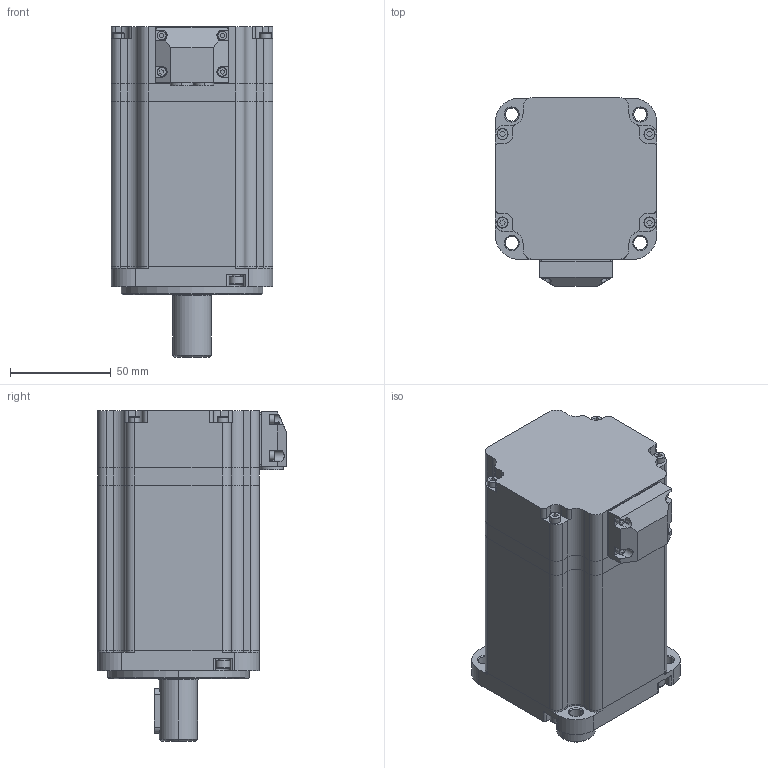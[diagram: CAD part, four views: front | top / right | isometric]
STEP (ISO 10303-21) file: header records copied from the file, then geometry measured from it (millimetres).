
FILE_DESCRIPTION (( 'STEP AP203' ), '1' );
FILE_NAME ('9.6953 SMC80S-0075-30AAK-3DSH.STEP', '2020-08-10T02:52:20', ( 'K' ), ( 'K' ), 'SwSTEP 2.0', 'SolidWorks 2018', '' );
FILE_SCHEMA (( 'CONFIG_CONTROL_DESIGN' ));
Length unit declared in the file: millimetre
Products named in the file (1): 9.6953 SMC80S-0075-30AAK-3DSH
Bounding box: 80 x 93.5 x 163.7 mm (x, y, z)
Volume: 292505.1 mm3; surface area: 155973.6 mm2
Topology: 26 solids, 26 shells, 1124 faces, 2851 edges, 1829 vertices
Faces by surface type: cylinder 534, plane 446, cone 96, torus 48
Entity records: 34526 total; most frequent: DIRECTION 6331, CARTESIAN_POINT 6219, ORIENTED_EDGE 5634, EDGE_CURVE 2817, AXIS2_PLACEMENT_3D 2429, VERTEX_POINT 1829, VECTOR 1473, LINE 1473
